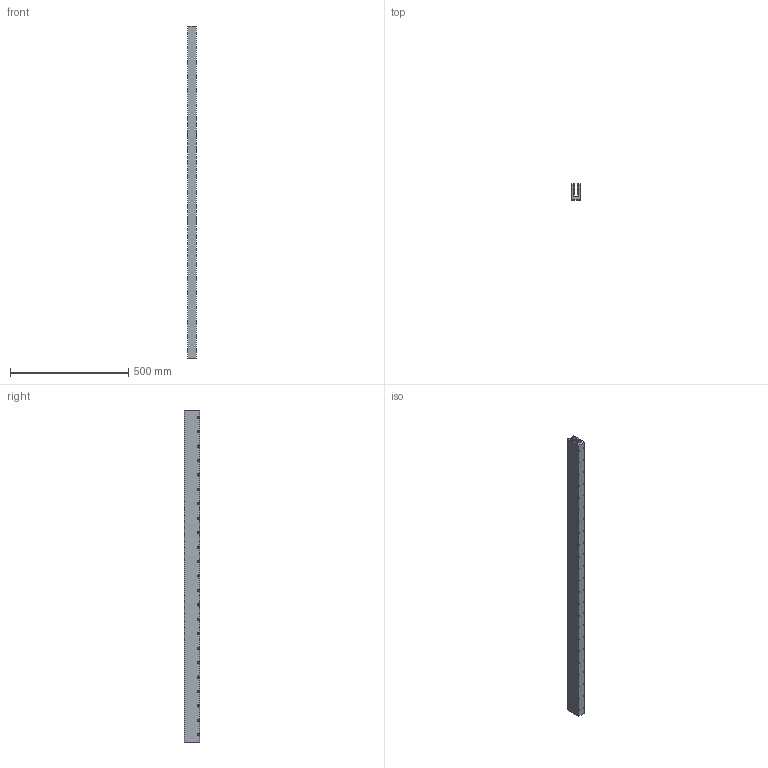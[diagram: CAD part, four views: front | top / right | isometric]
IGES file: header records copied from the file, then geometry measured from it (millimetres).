
Global section: file name: No Iges File Name specified; native system: Autodesk Inventor 2012; preprocessor: AutoDesk Inventor Iges Exporter R2012; author: je17857; date: 20120511.155854; units: inch
Bounding box: 34.29 x 67.31 x 1401.83 mm (x, y, z)
Volume: 2084552 mm3; surface area: 530685.4 mm2
Topology: 1 solids, 1 shells, 585 faces, 1335 edges, 890 vertices
Faces by surface type: plane 516, revolution 69
